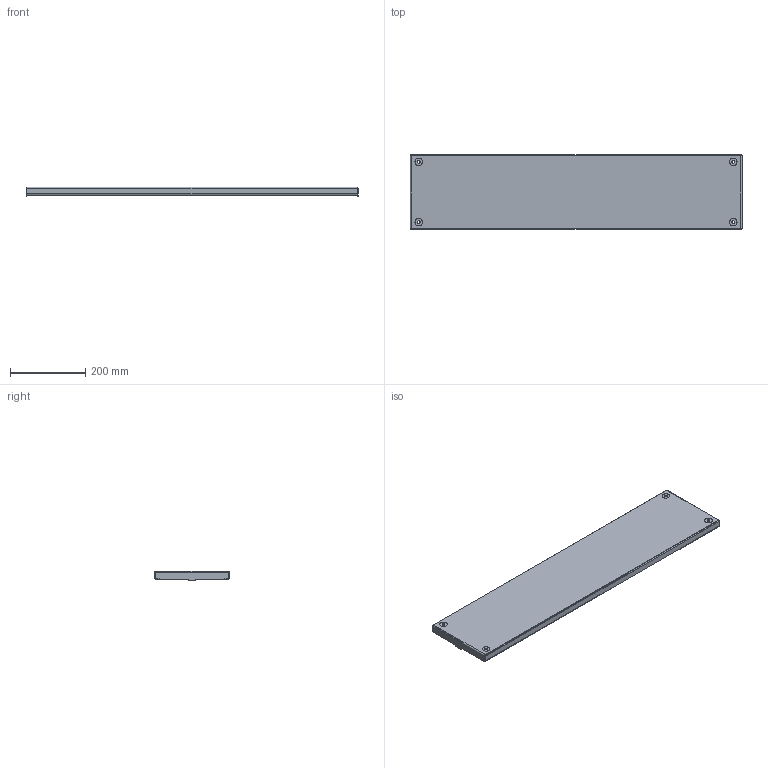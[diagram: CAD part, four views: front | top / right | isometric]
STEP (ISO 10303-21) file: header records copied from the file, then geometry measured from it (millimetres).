
FILE_DESCRIPTION(('STEP AP203'), '1');
FILE_NAME('Ïàíåëü öîêîëÿ Â=200 Ø=1000 ìì RAL7022 OptiBox M (2 øò) 419700 ÊÝÀÇ', '', ('UNSPECIFIED'), ('UNSPECIFIED'), 'C3D Converter', 'C3D Toolkit', '');
FILE_SCHEMA(('CONFIG_CONTROL_DESIGN'));
Length unit declared in the file: millimetre
Bounding box: 881.3 x 199 x 26.5 mm (x, y, z)
Volume: 324274.7 mm3; surface area: 468609.6 mm2
Topology: 1 solids, 1 shells, 142 faces, 360 edges, 224 vertices
Faces by surface type: cylinder 88, plane 46, bspline 8
Full cylindrical faces by diameter (mm): 4.6 x68, 7.3 x4, 20 x4
Entity records: 5392 total; most frequent: CARTESIAN_POINT 1879, DIRECTION 694, ORIENTED_EDGE 568, EDGE_LOOP 366, AXIS2_PLACEMENT_3D 295, EDGE_CURVE 284, VERTEX_POINT 224, FACE_BOUND 214
